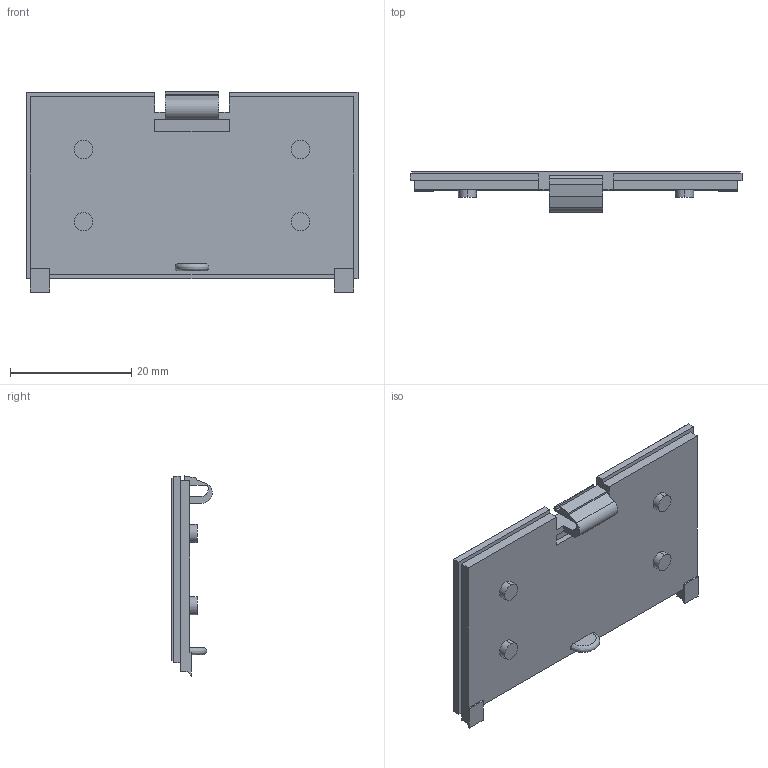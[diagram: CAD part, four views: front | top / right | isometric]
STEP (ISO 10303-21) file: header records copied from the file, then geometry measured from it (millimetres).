
FILE_DESCRIPTION (( 'STEP AP214' ), '1' );
FILE_NAME ('Tapeta pilas PP7A.STEP', '2019-11-04T09:00:08', ( 'aaa' ), ( '' ), 'SwSTEP 2.0', 'SolidWorks 2014', '' );
FILE_SCHEMA (( 'AUTOMOTIVE_DESIGN' ));
Length unit declared in the file: millimetre
Products named in the file (1): Tapeta pilas PP7A
Bounding box: 54.86 x 6.73 x 33.08 mm (x, y, z)
Volume: 4898.7 mm3; surface area: 4183.9 mm2
Topology: 1 solids, 1 shells, 69 faces, 182 edges, 120 vertices
Faces by surface type: plane 56, cylinder 12, bspline 1
Entity records: 2387 total; most frequent: CARTESIAN_POINT 631, ORIENTED_EDGE 364, DIRECTION 340, EDGE_CURVE 182, VECTOR 154, LINE 154, VERTEX_POINT 120, AXIS2_PLACEMENT_3D 93
